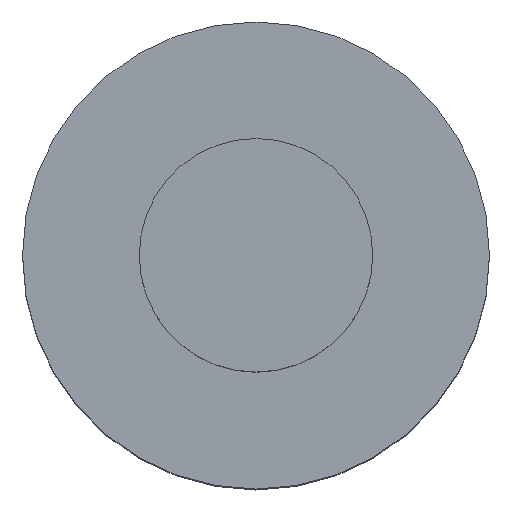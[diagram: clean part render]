
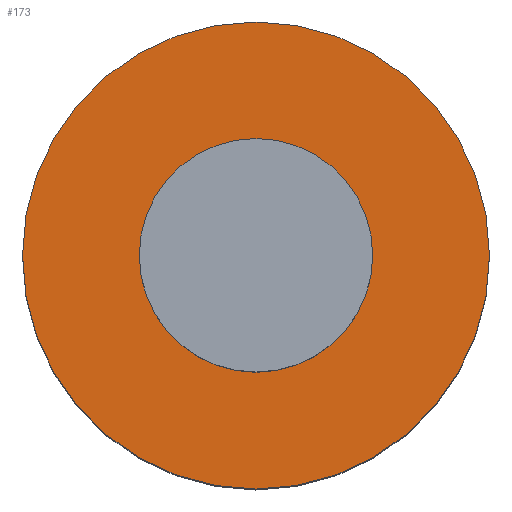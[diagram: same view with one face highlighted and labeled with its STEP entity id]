
A CAD part, top view. The second image highlights one B-rep face of the part: STEP entity #173.
In plain terms, the highlighted planar face has unit normal (0, 0, 1).
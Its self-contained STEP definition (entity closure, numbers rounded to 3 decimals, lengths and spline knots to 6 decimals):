
#173=ADVANCED_FACE('4:177',(#213,#214),#215,.F.);
#213=FACE_BOUND('',#283,.T.);
#214=FACE_OUTER_BOUND('',#284,.T.);
#215=PLANE('',#285);
#283=EDGE_LOOP('',(#374,#375));
#284=EDGE_LOOP('',(#376,#377));
#285=AXIS2_PLACEMENT_3D('',#378,#379,#380);
#374=ORIENTED_EDGE('',*,*,#553,.F.);
#375=ORIENTED_EDGE('',*,*,#549,.F.);
#376=ORIENTED_EDGE('',*,*,#538,.F.);
#377=ORIENTED_EDGE('',*,*,#554,.F.);
#378=CARTESIAN_POINT('',(0.,0.0,0.047));
#379=DIRECTION('',(0.,0.0,-1.0));
#380=DIRECTION('',(-1.0,0.0,0.));
#538=EDGE_CURVE('4:204',#595,#598,#599,.T.);
#549=EDGE_CURVE('4:198',#617,#620,#621,.T.);
#553=EDGE_CURVE('4:198',#620,#617,#626,.T.);
#554=EDGE_CURVE('4:204',#598,#595,#627,.T.);
#595=VERTEX_POINT('',#687);
#598=VERTEX_POINT('',#691);
#599=CIRCLE('',#692,0.02);
#617=VERTEX_POINT('',#713);
#620=VERTEX_POINT('',#717);
#621=CIRCLE('',#718,0.01);
#626=CIRCLE('',#724,0.01);
#627=CIRCLE('',#725,0.02);
#687=CARTESIAN_POINT('',(-0.02,0.0,0.047));
#691=CARTESIAN_POINT('',(0.02,0.,0.047));
#692=AXIS2_PLACEMENT_3D('',#794,#795,#796);
#713=CARTESIAN_POINT('',(0.01,0.,0.047));
#717=CARTESIAN_POINT('',(-0.01,0.,0.047));
#718=AXIS2_PLACEMENT_3D('',#819,#820,#821);
#724=AXIS2_PLACEMENT_3D('',#829,#830,#831);
#725=AXIS2_PLACEMENT_3D('',#832,#833,#834);
#794=CARTESIAN_POINT('',(0.,0.0,0.047));
#795=DIRECTION('',(0.,0.0,-1.0));
#796=DIRECTION('',(-1.0,0.0,0.));
#819=CARTESIAN_POINT('',(0.,0.0,0.047));
#820=DIRECTION('',(0.,-0.0,1.0));
#821=DIRECTION('',(1.0,0.0,0.));
#829=CARTESIAN_POINT('',(0.,0.0,0.047));
#830=DIRECTION('',(0.,-0.0,1.0));
#831=DIRECTION('',(1.0,0.0,0.));
#832=CARTESIAN_POINT('',(0.,0.0,0.047));
#833=DIRECTION('',(0.,0.0,-1.0));
#834=DIRECTION('',(-1.0,0.0,0.));
